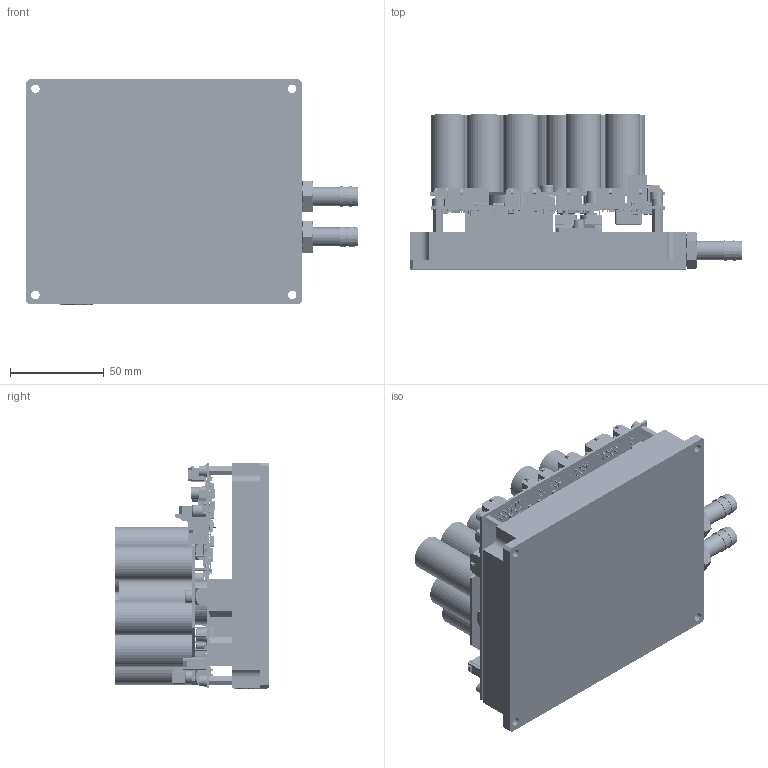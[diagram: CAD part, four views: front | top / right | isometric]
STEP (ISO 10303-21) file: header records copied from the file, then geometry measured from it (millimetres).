
FILE_DESCRIPTION (( 'STEP AP214' ), '1' );
FILE_NAME ('482.10.00.000-B01_SDC-400.STEP', '2026-02-08T10:56:24', ( '' ), ( '' ), 'SwSTEP 2.0', 'SolidWorks 2019', '' );
FILE_SCHEMA (( 'AUTOMOTIVE_DESIGN' ));
Length unit declared in the file: millimetre
Products named in the file (18): ﾘ琺矜 ﾌ4 DIN127; 482.10.00.012-A01_砑僔蠂縺; 3569_B-1_4; Q1_sdc-400 LV; 482.10.00.000-B01_SDC-400; 482.10.00.010-B01_Êîðïóñ â ñáîðå; 482.10.00.013-A01_砑僔蠂縺; 482.10.00.011-B01_扻豵鵨; SDC-400 LV_2; 栺鍣罻 PCHSN-12; 482.10.00.001-A01_砱謽闀豂膹馯罻; Âèíò DIN912 M3x8 screw with spring and washer; 妈眚 󊅙0 DIN912; 3607_N-1_4-P-9; SDC-400 LV_1; ﾘ琺矜 ﾌ4 DIN125; 妈眚 󊅠 DIN912; 妈眚 󉱭6 DIN7991
Assembly tree (41 placements, depth 3):
  482.10.00.000-B01_SDC-400
    482.10.00.010-B01_Êîðïóñ â ñáîðå
      482.10.00.011-B01_扻豵鵨
      482.10.00.012-A01_砑僔蠂縺
      482.10.00.013-A01_砑僔蠂縺
      3569_B-1_4
      3607_N-1_4-P-9  x2
      妈眚 󉱭6 DIN7991  x2
    栺鍣罻 PCHSN-12  x4
    Âèíò DIN912 M3x8 screw with spring and washer  x6
    ﾘ琺矜 ﾌ4 DIN125  x4
    ﾘ琺矜 ﾌ4 DIN127  x4
    妈眚 󊅙0 DIN912  x4
    妈眚 󊅠 DIN912  x6
    482.10.00.001-A01_砱謽闀豂膹馯罻
    Q1_sdc-400 LV
    SDC-400 LV_1
    SDC-400 LV_2
Bounding box: 177.1 x 82.58 x 120.2 mm (x, y, z)
Volume: 372038.9 mm3; surface area: 207497.9 mm2
Topology: 50 solids, 3058 shells, 12893 faces, 64762 edges, 54044 vertices
Faces by surface type: plane 8342, cylinder 2359, bspline 1736, sphere 257, cone 146, torus 53
Full cylindrical faces by diameter (mm): 0.2 x1, 0.25 x4, 0.381 x2, 0.438 x1, 0.487 x3, 0.488 x2, 0.493 x1, 0.5 x6, 0.575 x2, 0.6 x2, 0.63 x5, 0.75 x1, 0.761 x4, 0.762 x6, 0.8 x33, 0.811 x1, 0.841 x3, 0.86 x2, 0.888 x1, 0.911 x6, 0.937 x1, 1.011 x70, 1.25 x1, 1.461 x2, 1.7 x2, 1.711 x36, 1.911 x2, 2.111 x2, 2.5 x12, 3 x12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
Entity records: 833667 total; most frequent: CARTESIAN_POINT 263138, ORIENTED_EDGE 78626, DIRECTION 67403, EDGE_CURVE 63065, VERTEX_POINT 53424, LINE 35835, VECTOR 35835, B_SPLINE_CURVE_WITH_KNOTS 21351
